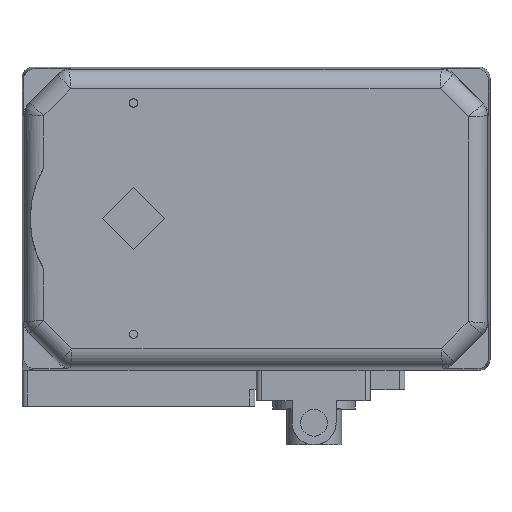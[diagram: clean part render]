
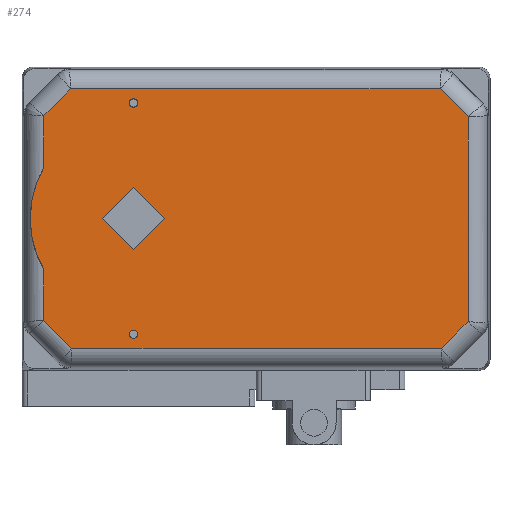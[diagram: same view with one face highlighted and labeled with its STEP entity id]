
A CAD part, top view. The second image highlights one B-rep face of the part: STEP entity #274.
In plain terms, the highlighted planar face has unit normal (0, 0, 1).
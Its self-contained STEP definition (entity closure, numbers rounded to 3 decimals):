
#274 = ADVANCED_FACE( '', ( #629, #630, #631, #632 ), #633, .T. );
#629 = FACE_BOUND( '', #1701, .T. );
#630 = FACE_BOUND( '', #1702, .T. );
#631 = FACE_OUTER_BOUND( '', #1703, .T. );
#632 = FACE_BOUND( '', #1704, .T. );
#633 = PLANE( '', #1705 );
#1701 = EDGE_LOOP( '', ( #3228 ) );
#1702 = EDGE_LOOP( '', ( #3229, #3230, #3231, #3232 ) );
#1703 = EDGE_LOOP( '', ( #3233, #3234, #3235, #3236, #3237, #3238, #3239, #3240, #3241, #3242 ) );
#1704 = EDGE_LOOP( '', ( #3243 ) );
#1705 = AXIS2_PLACEMENT_3D( '', #3244, #3245, #3246 );
#3228 = ORIENTED_EDGE( '', *, *, #3905, .T. );
#3229 = ORIENTED_EDGE( '', *, *, #4042, .T. );
#3230 = ORIENTED_EDGE( '', *, *, #4043, .T. );
#3231 = ORIENTED_EDGE( '', *, *, #3885, .T. );
#3232 = ORIENTED_EDGE( '', *, *, #4044, .T. );
#3233 = ORIENTED_EDGE( '', *, *, #3984, .T. );
#3234 = ORIENTED_EDGE( '', *, *, #3883, .F. );
#3235 = ORIENTED_EDGE( '', *, *, #3983, .T. );
#3236 = ORIENTED_EDGE( '', *, *, #4045, .T. );
#3237 = ORIENTED_EDGE( '', *, *, #3825, .T. );
#3238 = ORIENTED_EDGE( '', *, *, #4046, .T. );
#3239 = ORIENTED_EDGE( '', *, *, #4047, .T. );
#3240 = ORIENTED_EDGE( '', *, *, #3964, .T. );
#3241 = ORIENTED_EDGE( '', *, *, #4048, .T. );
#3242 = ORIENTED_EDGE( '', *, *, #4049, .T. );
#3243 = ORIENTED_EDGE( '', *, *, #4050, .T. );
#3244 = CARTESIAN_POINT( '', ( -40.5, -55.1, 25. ) );
#3245 = DIRECTION( '', ( 0., 0., 1. ) );
#3246 = DIRECTION( '', ( 1., 0., 0. ) );
#3825 = EDGE_CURVE( '', #4251, #4255, #4257, .F. );
#3883 = EDGE_CURVE( '', #4352, #4353, #4355, .T. );
#3885 = EDGE_CURVE( '', #4357, #4358, #4359, .T. );
#3905 = EDGE_CURVE( '', #4390, #4390, #4391, .T. );
#3964 = EDGE_CURVE( '', #4481, #4221, #4485, .T. );
#3983 = EDGE_CURVE( '', #4352, #4512, #4513, .F. );
#3984 = EDGE_CURVE( '', #4312, #4353, #4514, .F. );
#4042 = EDGE_CURVE( '', #4596, #4597, #4598, .T. );
#4043 = EDGE_CURVE( '', #4597, #4357, #4599, .T. );
#4044 = EDGE_CURVE( '', #4358, #4596, #4600, .T. );
#4045 = EDGE_CURVE( '', #4512, #4251, #4601, .T. );
#4046 = EDGE_CURVE( '', #4255, #4602, #4603, .F. );
#4047 = EDGE_CURVE( '', #4602, #4481, #4604, .F. );
#4048 = EDGE_CURVE( '', #4221, #4605, #4606, .F. );
#4049 = EDGE_CURVE( '', #4605, #4312, #4607, .F. );
#4050 = EDGE_CURVE( '', #4608, #4608, #4609, .T. );
#4221 = VERTEX_POINT( '', #4801 );
#4251 = VERTEX_POINT( '', #4837 );
#4255 = VERTEX_POINT( '', #4842 );
#4257 = LINE( '', #4844, #4845 );
#4312 = VERTEX_POINT( '', #4912 );
#4352 = VERTEX_POINT( '', #4964 );
#4353 = VERTEX_POINT( '', #4965 );
#4355 = CIRCLE( '', #4990, 37.3 );
#4357 = VERTEX_POINT( '', #4992 );
#4358 = VERTEX_POINT( '', #4993 );
#4359 = LINE( '', #4994, #4995 );
#4390 = VERTEX_POINT( '', #5037 );
#4391 = CIRCLE( '', #5038, 1.5 );
#4481 = VERTEX_POINT( '', #5168 );
#4485 = LINE( '', #5173, #5174 );
#4512 = VERTEX_POINT( '', #5213 );
#4513 = LINE( '', #5214, #5215 );
#4514 = LINE( '', #5216, #5217 );
#4596 = VERTEX_POINT( '', #5406 );
#4597 = VERTEX_POINT( '', #5407 );
#4598 = LINE( '', #5408, #5409 );
#4599 = LINE( '', #5410, #5411 );
#4600 = LINE( '', #5412, #5413 );
#4601 = LINE( '', #5414, #5415 );
#4602 = VERTEX_POINT( '', #5416 );
#4603 = LINE( '', #5417, #5418 );
#4604 = LINE( '', #5419, #5420 );
#4605 = VERTEX_POINT( '', #5421 );
#4606 = LINE( '', #5422, #5423 );
#4607 = LINE( '', #5424, #5425 );
#4608 = VERTEX_POINT( '', #5426 );
#4609 = CIRCLE( '', #5427, 1.5 );
#4801 = CARTESIAN_POINT( '', ( 111.367, 47.147, 25. ) );
#4837 = CARTESIAN_POINT( '', ( -22.367, -47.147, 25. ) );
#4842 = CARTESIAN_POINT( '', ( 111.825, -47.147, 25. ) );
#4844 = CARTESIAN_POINT( '', ( 112.589, -47.147, 25. ) );
#4845 = VECTOR( '', #5913, 1000. );
#4912 = CARTESIAN_POINT( '', ( -32.547, 37.425, 25. ) );
#4964 = CARTESIAN_POINT( '', ( -32.547, -18.573, 25. ) );
#4965 = CARTESIAN_POINT( '', ( -32.547, 18.573, 25. ) );
#4990 = AXIS2_PLACEMENT_3D( '', #5989, #5990, #5991 );
#4992 = CARTESIAN_POINT( '', ( -11.314, 0., 25. ) );
#4993 = CARTESIAN_POINT( '', ( 0., 11.314, 25. ) );
#4994 = CARTESIAN_POINT( '', ( -11.314, 0., 25. ) );
#4995 = VECTOR( '', #5992, 1000. );
#5037 = CARTESIAN_POINT( '', ( 0., 43.5, 25. ) );
#5038 = AXIS2_PLACEMENT_3D( '', #6016, #6017, #6018 );
#5168 = CARTESIAN_POINT( '', ( 121.547, 36.967, 25. ) );
#5173 = CARTESIAN_POINT( '', ( 111.176, 47.338, 25. ) );
#5174 = VECTOR( '', #6103, 1000. );
#5213 = CARTESIAN_POINT( '', ( -32.547, -36.967, 25. ) );
#5214 = CARTESIAN_POINT( '', ( -32.547, -37.237, 25. ) );
#5215 = VECTOR( '', #6122, 1000. );
#5216 = CARTESIAN_POINT( '', ( -32.547, -37.237, 25. ) );
#5217 = VECTOR( '', #6123, 1000. );
#5406 = CARTESIAN_POINT( '', ( 11.314, 0., 25. ) );
#5407 = CARTESIAN_POINT( '', ( 0., -11.314, 25. ) );
#5408 = CARTESIAN_POINT( '', ( 11.314, 0., 25. ) );
#5409 = VECTOR( '', #6201, 1000. );
#5410 = CARTESIAN_POINT( '', ( 0., -11.314, 25. ) );
#5411 = VECTOR( '', #6202, 1000. );
#5412 = CARTESIAN_POINT( '', ( 0., 11.314, 25. ) );
#5413 = VECTOR( '', #6203, 1000. );
#5414 = CARTESIAN_POINT( '', ( -22.176, -47.338, 25. ) );
#5415 = VECTOR( '', #6204, 1000. );
#5416 = CARTESIAN_POINT( '', ( 121.547, -37.425, 25. ) );
#5417 = CARTESIAN_POINT( '', ( 121.474, -37.498, 25. ) );
#5418 = VECTOR( '', #6205, 1000. );
#5419 = CARTESIAN_POINT( '', ( 121.547, 37.237, 25. ) );
#5420 = VECTOR( '', #6206, 1000. );
#5421 = CARTESIAN_POINT( '', ( -22.825, 47.147, 25. ) );
#5422 = CARTESIAN_POINT( '', ( -23.589, 47.147, 25. ) );
#5423 = VECTOR( '', #6207, 1000. );
#5424 = CARTESIAN_POINT( '', ( -32.474, 37.498, 25. ) );
#5425 = VECTOR( '', #6208, 1000. );
#5426 = CARTESIAN_POINT( '', ( 0., -40.5, 25. ) );
#5427 = AXIS2_PLACEMENT_3D( '', #6209, #6210, #6211 );
#5913 = DIRECTION( '', ( -1., 0., 0. ) );
#5989 = CARTESIAN_POINT( '', ( -0.2, 0., 25. ) );
#5990 = DIRECTION( '', ( 0., 0., -1. ) );
#5991 = DIRECTION( '', ( 1., 0., 0. ) );
#5992 = DIRECTION( '', ( 0.707, 0.707, 0. ) );
#6016 = CARTESIAN_POINT( '', ( 0., 42., 25. ) );
#6017 = DIRECTION( '', ( 0., 0., -1. ) );
#6018 = DIRECTION( '', ( 0., 1., 0. ) );
#6103 = DIRECTION( '', ( -0.707, 0.707, 0. ) );
#6122 = DIRECTION( '', ( 0., 1., 0. ) );
#6123 = DIRECTION( '', ( 0., 1., 0. ) );
#6201 = DIRECTION( '', ( -0.707, -0.707, 0. ) );
#6202 = DIRECTION( '', ( -0.707, 0.707, 0. ) );
#6203 = DIRECTION( '', ( 0.707, -0.707, 0. ) );
#6204 = DIRECTION( '', ( 0.707, -0.707, 0. ) );
#6205 = DIRECTION( '', ( -0.707, -0.707, 0. ) );
#6206 = DIRECTION( '', ( 0., -1., 0. ) );
#6207 = DIRECTION( '', ( 1., 0., 0. ) );
#6208 = DIRECTION( '', ( 0.707, 0.707, 0. ) );
#6209 = CARTESIAN_POINT( '', ( 0., -42., 25. ) );
#6210 = DIRECTION( '', ( 0., 0., -1. ) );
#6211 = DIRECTION( '', ( 0., 1., 0. ) );
